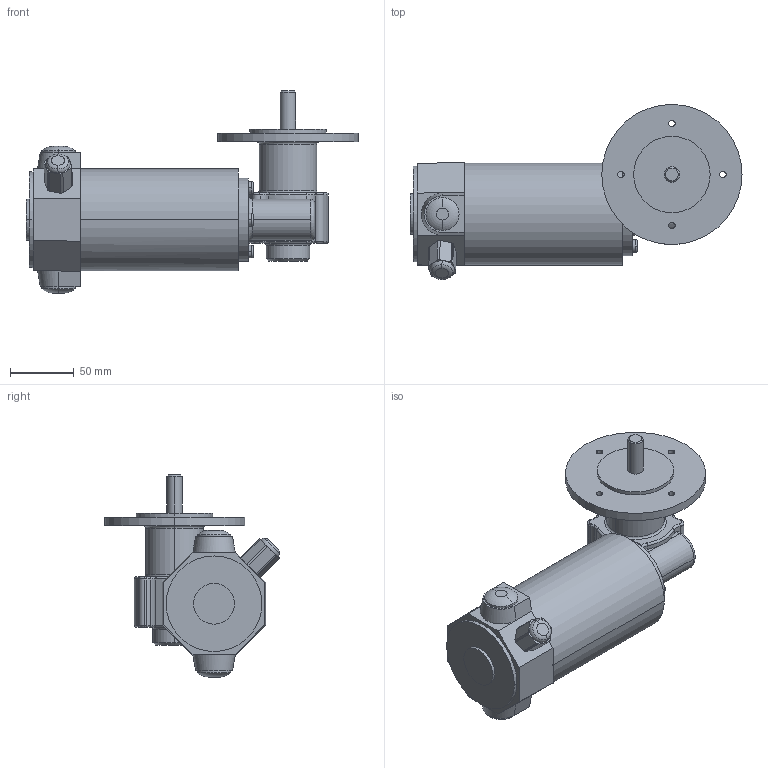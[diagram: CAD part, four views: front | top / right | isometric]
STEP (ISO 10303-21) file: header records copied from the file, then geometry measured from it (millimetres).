
FILE_DESCRIPTION(('OneSpaceDesigner STEP Export'),'2;1');
FILE_NAME('EPG13_GF125.stp','2008-07-02T13:59:55',(''),(''),'OneSpace Designer STEP processor (Jan. 2003) for AP214(CD)(Solid Model)','OneSpace Designer 12.01D 09-Jul-2004 (C) CoCreate Software GmbH','');
FILE_SCHEMA(('AUTOMOTIVE_DESIGN_CC2 {1 2 10303 214 -1 1 5 1}'));
Length unit declared in the file: millimetre
Products named in the file (2): EPG13_GF125
Assembly tree (1 placements, depth 2):
  EPG13_GF125
    EPG13_GF125
Bounding box: 260.5 x 137.39 x 158.5 mm (x, y, z)
Volume: 1211867.2 mm3; surface area: 100599.1 mm2
Topology: 1 solids, 1 shells, 212 faces, 511 edges, 317 vertices
Faces by surface type: cylinder 85, torus 74, plane 47, cone 4, bspline 2
Entity records: 8434 total; most frequent: CARTESIAN_POINT 3900, ORIENTED_EDGE 1022, DIRECTION 845, EDGE_CURVE 511, AXIS2_PLACEMENT_3D 350, VERTEX_POINT 317, EDGE_LOOP 236, CIRCLE 215
